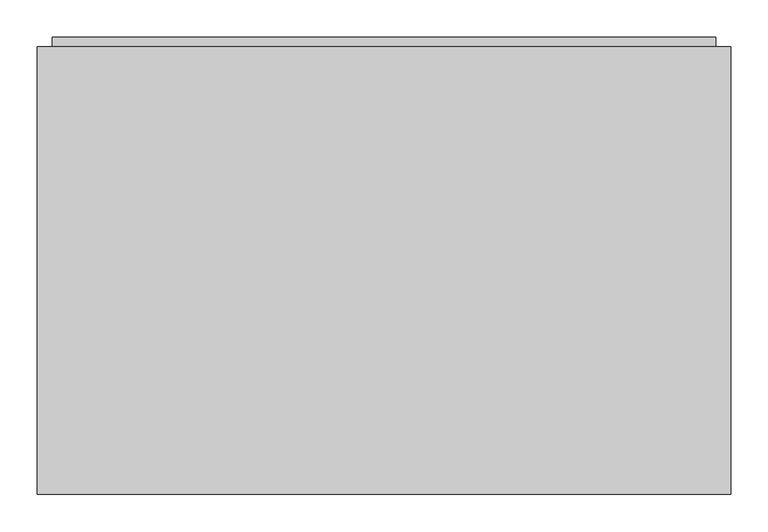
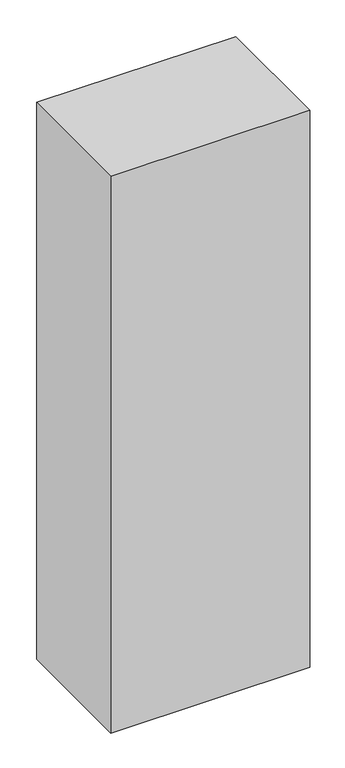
"""IFC4 building model written with IfcOpenShell, lengths in millimetres: proxy geometry."""

from ifc_helpers import new_model, si_unit, origin, place, context, project, spatial, faceted_brep, source, transform, mapped, element, save


def generic_models_6d538d5e(model_context):
    return source(origin(), model_context, "Body", "Brep", [
        faceted_brep([(-20.0, 613.0, 2730.0), (-20.0, 613.0, 0.0), (-910.0, 613.0, 0.0), (-910.0, 613.0, 2730.0), (-20.0, 600.0, 2730.0), (-20.0, 600.0, 0.0), (0.0, 600.0, 0.0), (0.0, 0.0, 0.0), (-930.0, 0.0, 0.0), (-930.0, 600.0, 0.0), (-910.0, 600.0, 0.0), (-910.0, 600.0, 2730.0), (-930.0, 0.0, 2750.0), (0.0, 0.0, 2750.0), (-930.0, 600.0, 2750.0), (0.0, 600.0, 2750.0)], [[[0, 1, 2, 3]], [[1, 0, 4, 5]], [[2, 1, 5, 6, 7, 8, 9, 10]], [[3, 2, 10, 11]], [[0, 3, 11, 4]], [[12, 8, 7, 13]], [[14, 15, 6, 5, 4, 11, 10, 9]], [[8, 12, 14, 9]], [[13, 7, 6, 15]], [[12, 13, 15, 14]]]),
    ])


if __name__ == "__main__":
    model = new_model("IFC4")
    model_context = context("Model", 3, world=origin())
    ifc_project = project(units=[si_unit("LENGTHUNIT", "METRE", prefix="MILLI")], contexts=[model_context])
    site = spatial("IfcSite", under=ifc_project)
    building = spatial("IfcBuilding", under=site)
    placement = place(None, origin())
    generic_models_shape = generic_models_6d538d5e(model_context)
    element("IfcBuildingElementProxy", 1, Name="Generic Models", at=placement, inside=building, context=model_context, shape_type="MappedRepresentation", body=[
        mapped(generic_models_shape, transform((0.0, 0.0, 0.0), x_axis=(1.0, 0.0, 0.0), y_axis=(0.0, 1.0, 0.0), z_axis=(0.0, 0.0, 1.0))),
    ])
    save(model, "model.ifc")
